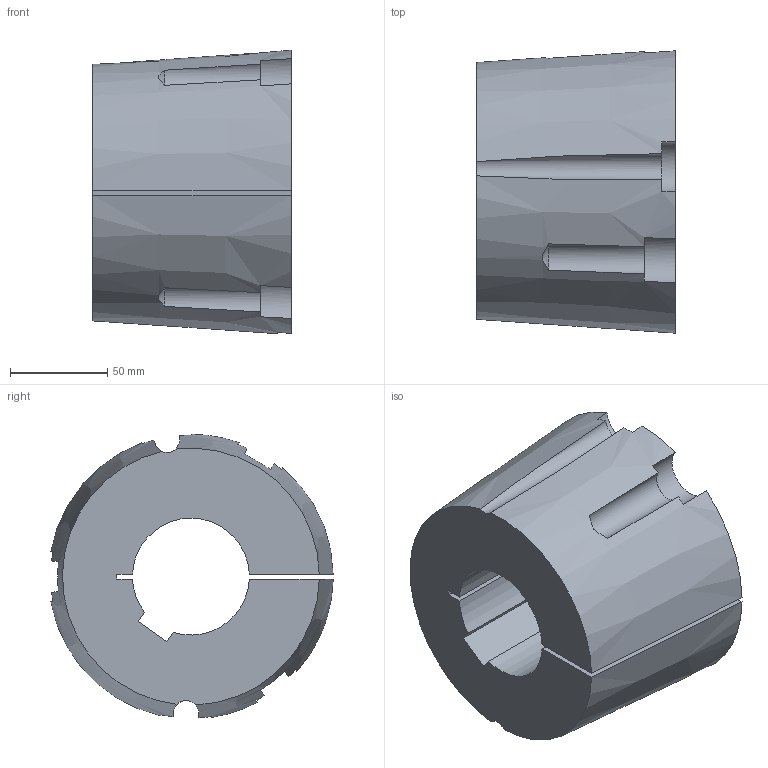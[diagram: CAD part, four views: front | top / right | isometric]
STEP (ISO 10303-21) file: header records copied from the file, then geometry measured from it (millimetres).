
FILE_DESCRIPTION( ( 'STEP AP203' ), '1' );
FILE_NAME( 'D:/export/antriebselemente/spannbuchsen_und_spannsaetze/taper-spannbuchsen_1008_bis_5050/taper-spannbuchsen_62251460Isometric_240.stp', '2018-12-11T11:11:33', ( '' ), ( '' ), ' ', 'PARTsolutions', ' ' );
FILE_SCHEMA( ( 'CONFIG_CONTROL_DESIGN' ) );
Length unit declared in the file: millimetre
Products named in the file (1): _taper-spannbuchsen_62251460
Bounding box: 102 x 144.84 x 145.4 mm (x, y, z)
Volume: 1193892.4 mm3; surface area: 101001.4 mm2
Topology: 1 solids, 1 shells, 34 faces, 96 edges, 64 vertices
Faces by surface type: plane 15, cylinder 13, cone 6
Entity records: 1310 total; most frequent: CARTESIAN_POINT 386, ORIENTED_EDGE 192, DIRECTION 186, EDGE_CURVE 96, AXIS2_PLACEMENT_3D 80, VERTEX_POINT 64, CIRCLE 45, ADVANCED_FACE 34
